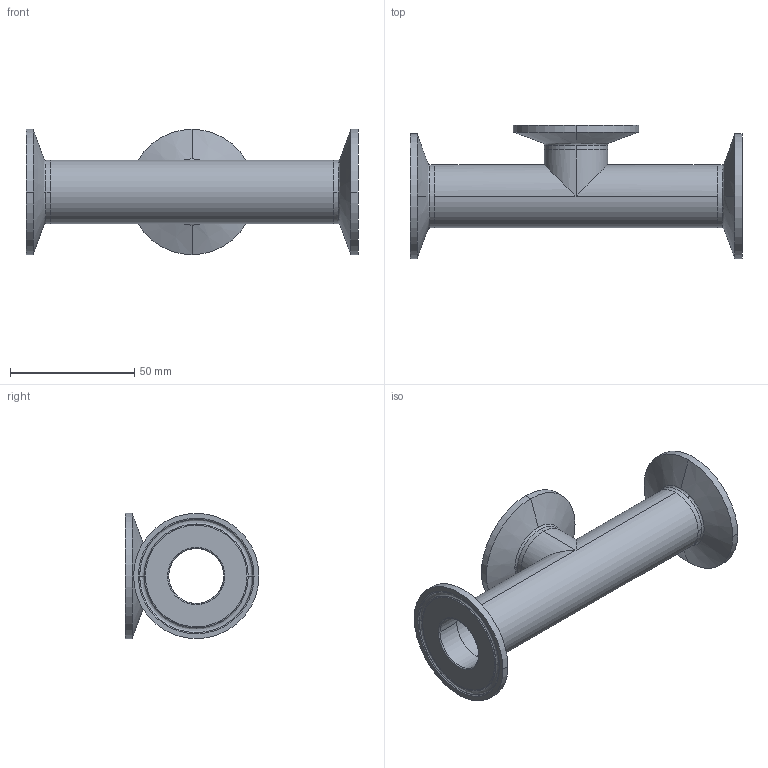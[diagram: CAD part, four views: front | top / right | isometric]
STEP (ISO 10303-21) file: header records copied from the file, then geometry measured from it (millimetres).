
FILE_DESCRIPTION (( 'STEP AP214' ), '1' );
FILE_NAME ('TEG7S6L1.0-...STEP', '2016-05-24T12:21:59', ( 'eran' ), ( '' ), 'SwSTEP 2.0', 'SolidWorks 2016', '' );
FILE_SCHEMA (( 'AUTOMOTIVE_DESIGN' ));
Length unit declared in the file: millimetre
Products named in the file (1): TEG7S6L1.0-..
Bounding box: 133.4 x 53.8 x 50.39 mm (x, y, z)
Volume: 39290.5 mm3; surface area: 31968.8 mm2
Topology: 4 solids, 4 shells, 88 faces, 220 edges, 142 vertices
Faces by surface type: bspline 30, cylinder 28, cone 18, plane 12
Entity records: 4277 total; most frequent: CARTESIAN_POINT 2119, DIRECTION 466, ORIENTED_EDGE 440, EDGE_CURVE 220, AXIS2_PLACEMENT_3D 209, CIRCLE 150, VERTEX_POINT 142, EDGE_LOOP 100
